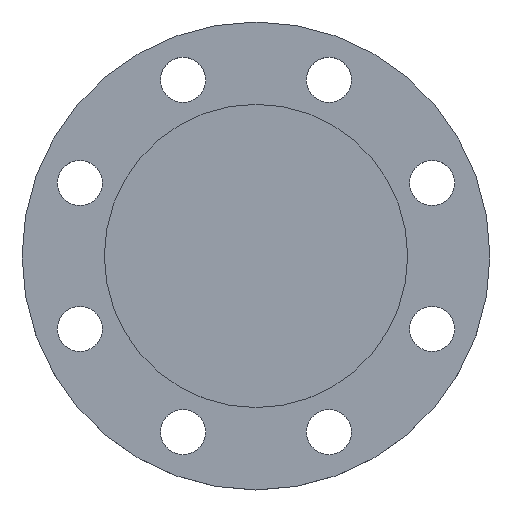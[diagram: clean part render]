
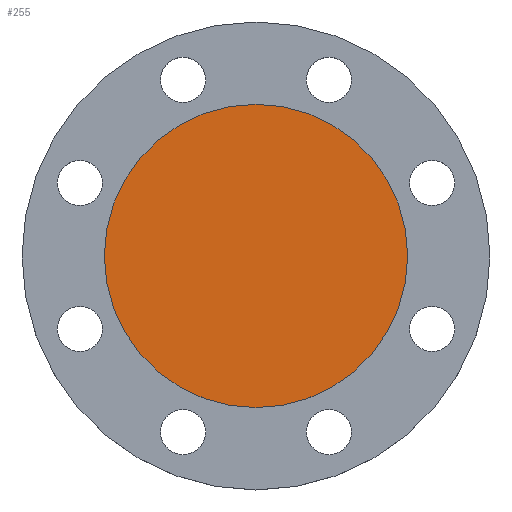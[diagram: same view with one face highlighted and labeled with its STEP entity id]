
A CAD part, top view. The second image highlights one B-rep face of the part: STEP entity #255.
In plain terms, the highlighted planar face has unit normal (0, 0, 1).
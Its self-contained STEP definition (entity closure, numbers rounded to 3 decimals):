
#145 = CARTESIAN_POINT ( 'NONE',  ( 87.5, 0., 0. ) ) ;
#148 = CARTESIAN_POINT ( 'NONE',  ( -87.5, 0., 0. ) ) ;
#181 = EDGE_CURVE ( 'NONE', #720, #731, #227, .T. ) ;
#227 = CIRCLE ( 'NONE', #229, 87.5 ) ;
#229 = AXIS2_PLACEMENT_3D ( 'NONE', #798, #797, #427 ) ;
#252 = EDGE_CURVE ( 'NONE', #731, #720, #765, .T. ) ;
#255 = ADVANCED_FACE ( 'NONE', ( #433 ), #445, .T. ) ;
#426 = DIRECTION ( 'NONE',  ( -1., 0., 0. ) ) ;
#427 = DIRECTION ( 'NONE',  ( -1., 0., 0. ) ) ;
#430 = CARTESIAN_POINT ( 'NONE',  ( 0., 0., 0. ) ) ;
#433 = FACE_OUTER_BOUND ( 'NONE', #713, .T. ) ;
#444 = CARTESIAN_POINT ( 'NONE',  ( 0., 0., 0. ) ) ;
#445 = PLANE ( 'NONE',  #837 ) ;
#449 = DIRECTION ( 'NONE',  ( 0., 0., -1. ) ) ;
#713 = EDGE_LOOP ( 'NONE', ( #951, #952 ) ) ;
#720 = VERTEX_POINT ( 'NONE', #148 ) ;
#731 = VERTEX_POINT ( 'NONE', #145 ) ;
#765 = CIRCLE ( 'NONE', #791, 87.5 ) ;
#791 = AXIS2_PLACEMENT_3D ( 'NONE', #430, #449, #426 ) ;
#792 = DIRECTION ( 'NONE',  ( 0., 0., 1. ) ) ;
#797 = DIRECTION ( 'NONE',  ( 0., 0., -1. ) ) ;
#798 = CARTESIAN_POINT ( 'NONE',  ( 0., 0., 0. ) ) ;
#814 = DIRECTION ( 'NONE',  ( 1., 0., 0. ) ) ;
#837 = AXIS2_PLACEMENT_3D ( 'NONE', #444, #792, #814 ) ;
#951 = ORIENTED_EDGE ( 'NONE', *, *, #181, .F. ) ;
#952 = ORIENTED_EDGE ( 'NONE', *, *, #252, .F. ) ;
